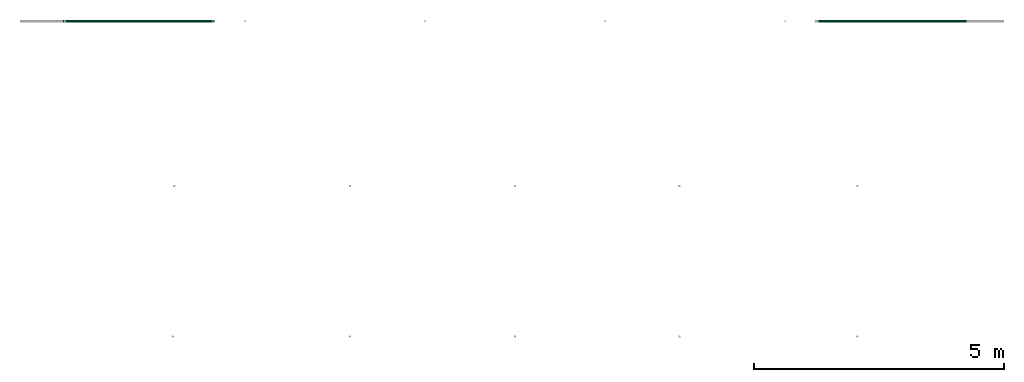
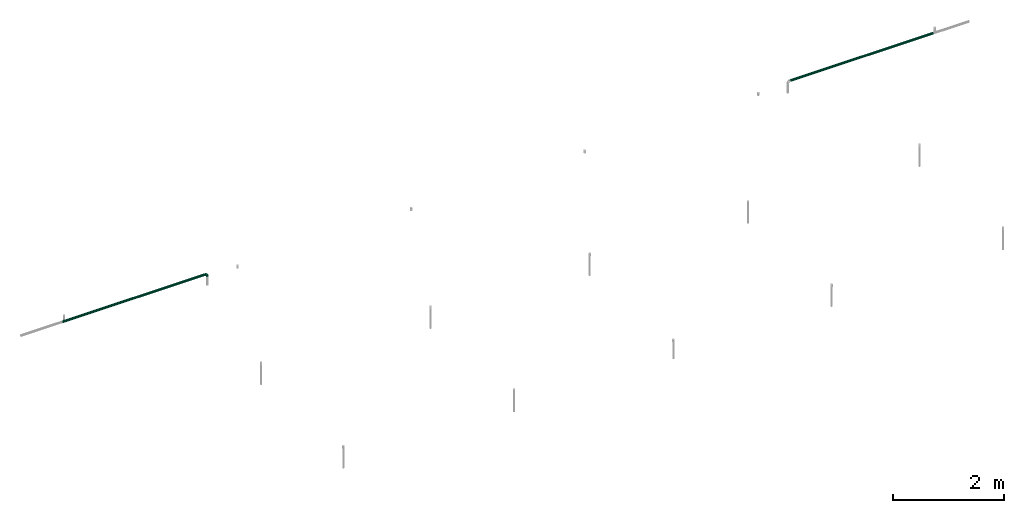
# One storey, part 1 of 14: 2 flow fittings, 2 flow segments.
"""IFC2X3 building model written with IfcOpenShell, lengths in millimetres."""

from ifc_helpers import new_model, entity, si_unit, converted_unit, derived_unit, direction, frame, origin_with_axes, origin_2d_with_axis, place, context, subcontext, project, spatial, hollow_circle, extrude, open_shell, surface_model, source, transform, mapped, type_object, element, save


model = new_model("IFC2X3")

# Units and contexts
model_context = context("Model", 3, precision=0.01, world=frame((0.0, 4.29681676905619e-09, 0.0)), true_north=direction((4.01073788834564e-13, 1.0)))
plan_context = context("Plan", 3, precision=0.01, world=frame((0.0, 4.29681676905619e-09, 0.0)), true_north=direction((4.01073788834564e-13, 1.0)))
body_context = subcontext(model_context, "Body", "Model", "MODEL_VIEW")
ifc_project = project(units=[converted_unit("PLANEANGLEUNIT", "DEGREE", entity("IfcPositiveLengthMeasure", 0.0174532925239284), si_unit("PLANEANGLEUNIT", "RADIAN"), dimensions=[0, 0, 0, 0, 0, 0, 0]), si_unit("AREAUNIT", "SQUARE_METRE"), si_unit("LENGTHUNIT", "METRE", prefix="MILLI"), si_unit("MASSUNIT", "GRAM", prefix="KILO"), si_unit("POWERUNIT", "WATT"), si_unit("PRESSUREUNIT", "PASCAL", prefix="KILO"), si_unit("FORCEUNIT", "NEWTON", prefix="KILO"), si_unit("ELECTRICVOLTAGEUNIT", "VOLT"), si_unit("ELECTRICCURRENTUNIT", "AMPERE"), si_unit("THERMODYNAMICTEMPERATUREUNIT", "DEGREE_CELSIUS"), si_unit("TIMEUNIT", "SECOND"), si_unit("VOLUMEUNIT", "CUBIC_METRE"), derived_unit("LINEARVELOCITYUNIT", [(si_unit("LENGTHUNIT", "METRE"), 1), (si_unit("TIMEUNIT", "SECOND"), -1)]), derived_unit("VOLUMETRICFLOWRATEUNIT", [(si_unit("VOLUMEUNIT", "CUBIC_METRE"), 1), (si_unit("TIMEUNIT", "SECOND"), -1)]), derived_unit("THERMALTRANSMITTANCEUNIT", [(si_unit("POWERUNIT", "WATT"), 1), (si_unit("THERMODYNAMICTEMPERATUREUNIT", "KELVIN"), -1), (si_unit("AREAUNIT", "SQUARE_METRE"), -1)]), derived_unit("SOUNDPRESSUREUNIT", [(si_unit("PRESSUREUNIT", "PASCAL"), 1)])], contexts=[model_context, plan_context])

# Site, building, storey
site_placement = place(None, frame((0.0, -4.29681676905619e-09, 0.0), z_axis=(0.0, 0.0, 1.0), x_axis=(1.0, 0.0, 0.0)))
site = spatial("IfcSite", under=ifc_project, at=site_placement, CompositionType="ELEMENT")
building_placement = place(site_placement, frame((0.0, 4.29681676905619e-09, 0.0), z_axis=(0.0, 0.0, 1.0), x_axis=(1.0, 0.0, 0.0)))
building = spatial("IfcBuilding", under=site, at=building_placement, Name="mc-building", CompositionType="ELEMENT")
storey_placement = place(building_placement, frame((0.0, 0.0, 204000.0), z_axis=(0.0, 0.0, 1.0), x_axis=(1.0, 0.0, 0.0)))
storey = spatial("IfcBuildingStorey", under=building, at=storey_placement, Name="Nivå D", CompositionType="ELEMENT", Elevation=204000.0)

# Flow fittings
pipe_fitting_type_1 = type_object("IfcPipeFittingType", Name="magi_pipe_fe_tee_centric_90_NOR", PredefinedType="JUNCTION")
shared_shape_1 = source(origin_with_axes(), body_context, "Body", "SurfaceModel", [
    surface_model("IfcShellBasedSurfaceModel", [(-33.8, 0.0, -24.2), (-33.8, -6.26342, -23.37541), (-33.8, 6.26342, -23.37541), (-33.8, 12.1, -20.95781), (-33.8, 17.11198, -17.11198), (-33.8, 20.95781, -12.1), (-33.8, -23.37541, -6.26342), (-33.8, 23.37541, -6.26342), (-33.8, -17.11198, -17.11198), (-33.8, -20.95781, -12.1), (-33.8, -12.1, -20.95781), (-33.8, -24.2, 0.0), (-33.8, -23.37541, 6.26342), (-33.8, 20.95781, 12.1), (-33.8, 23.37541, 6.26342), (-33.8, 24.2, 0.0), (-33.8, 12.1, 20.95781), (-33.8, 17.11198, 17.11198), (-33.8, -17.11198, 17.11198), (-33.8, 6.26342, 23.37541), (-33.8, -20.95781, 12.1), (-33.8, -12.1, 20.95781), (-33.8, -6.26342, 23.37541), (-33.8, 0.0, 24.2), (33.8, 6.26342, -23.37541), (33.8, -6.26342, -23.37541), (33.8, 0.0, -24.2), (33.8, 17.11198, -17.11198), (33.8, 12.1, -20.95781), (33.8, -23.37541, -6.26342), (33.8, 20.95781, -12.1), (33.8, 23.37541, -6.26342), (33.8, -17.11198, -17.11198), (33.8, -12.1, -20.95781), (33.8, -20.95781, -12.1), (33.8, -24.2, 0.0), (33.8, 24.2, 0.0), (33.8, 23.37541, 6.26342), (33.8, 20.95781, 12.1), (33.8, -23.37541, 6.26342), (33.8, -17.11198, 17.11198), (33.8, 12.1, 20.95781), (33.8, 17.11198, 17.11198), (33.8, 6.26342, 23.37541), (33.8, -20.95781, 12.1), (33.8, -12.1, 20.95781), (33.8, 0.0, 24.2), (33.8, -6.26342, 23.37541), (15.81824, -23.45734, 5.94922), (16.9, -24.2, 0.0), (12.87025, -21.57947, 10.95293), (33.8, -19.0349, 14.60599), (8.52813, -19.30697, 14.59044), (3.03527, -17.5853, 16.6252), (-3.04044, -17.58619, 16.62425), (-8.52961, -19.30762, 14.58958), (-33.8, -19.0349, 14.60599), (-16.9, -24.2, 0.0), (-15.81885, -23.45775, 5.9476), (-12.87368, -21.58151, 10.9489), (3.03527, -17.5853, -16.6252), (33.8, -19.0349, -14.60599), (8.52813, -19.30697, -14.59044), (-8.52961, -19.30762, -14.58958), (-33.8, -19.0349, -14.60599), (12.87025, -21.57947, -10.95293), (-3.04044, -17.58619, -16.62425), (15.81824, -23.45734, -5.94922), (-12.87368, -21.58151, -10.9489), (-15.81885, -23.45775, -5.9476), (4.37404, -36.3, -16.32415), (-16.9, -36.3, 0.0), (0.0, -36.3, -16.9), (14.63583, -36.3, -8.45), (8.45, -36.3, -14.63583), (16.32415, -36.3, -4.37404), (11.9501, -36.3, -11.9501), (-11.9501, -36.3, -11.9501), (-8.45, -36.3, -14.63583), (-4.37404, -36.3, -16.32415), (-14.63583, -36.3, -8.45), (-16.32415, -36.3, -4.37404), (16.9, -36.3, 0.0), (8.45, -36.3, 14.63583), (16.32415, -36.3, 4.37404), (14.63583, -36.3, 8.45), (-8.45, -36.3, 14.63583), (11.9501, -36.3, 11.9501), (4.37404, -36.3, 16.32415), (-16.32415, -36.3, 4.37404), (-11.9501, -36.3, 11.9501), (-14.63583, -36.3, 8.45), (0.0, -36.3, 16.9), (-4.37404, -36.3, 16.32415), (-16.35943, -23.82888, 2.9738), (16.35912, -23.82867, 2.97461), (-0.00259, -17.58575, 16.62472), (16.35912, -23.82867, -2.97461), (-0.00259, -17.58575, -16.62472), (-16.35943, -23.82888, -2.9738)], [open_shell([[[0, 1, 2]], [[3, 2, 4]], [[5, 2, 6]], [[4, 2, 5]], [[7, 5, 6]], [[8, 9, 10]], [[1, 10, 9]], [[1, 9, 2]], [[9, 6, 2]], [[6, 11, 7]], [[11, 12, 7]], [[13, 14, 15]], [[13, 15, 12]], [[16, 17, 18]], [[12, 17, 13]], [[19, 16, 18]], [[20, 18, 12]], [[18, 17, 12]], [[21, 22, 18]], [[23, 18, 22]], [[18, 23, 19]], [[7, 12, 15]], [[24, 25, 26]], [[27, 24, 28]], [[29, 24, 30]], [[30, 24, 27]], [[29, 30, 31]], [[25, 32, 33]], [[32, 25, 34]], [[24, 34, 25]], [[24, 29, 34]], [[31, 35, 29]], [[31, 36, 35]], [[36, 37, 38]], [[39, 36, 38]], [[40, 38, 41]], [[41, 38, 42]], [[40, 41, 43]], [[39, 40, 44]], [[39, 38, 40]], [[45, 46, 47]], [[46, 45, 40]], [[43, 46, 40]], [[36, 39, 35]], [[35, 39, 48]], [[48, 49, 35]], [[39, 50, 48]], [[51, 40, 52]], [[52, 50, 44]], [[53, 52, 40]], [[54, 53, 21]], [[44, 50, 39]], [[55, 18, 56]], [[57, 58, 11]], [[12, 11, 58]], [[58, 59, 12]], [[55, 54, 18]], [[55, 20, 59]], [[20, 55, 56]], [[59, 20, 12]], [[18, 54, 21]], [[52, 44, 51]], [[53, 40, 45]], [[23, 47, 46]], [[22, 45, 47]], [[19, 46, 43]], [[38, 37, 14]], [[17, 41, 42]], [[13, 42, 38]], [[43, 41, 16]], [[15, 37, 36]], [[21, 45, 22]], [[22, 47, 23]], [[19, 23, 46]], [[43, 16, 19]], [[16, 41, 17]], [[13, 17, 42]], [[14, 13, 38]], [[37, 15, 14]], [[45, 21, 53]], [[5, 31, 30]], [[7, 36, 31]], [[4, 30, 27]], [[26, 25, 1]], [[2, 28, 24]], [[0, 24, 26]], [[27, 28, 3]], [[10, 25, 33]], [[15, 36, 7]], [[7, 31, 5]], [[4, 5, 30]], [[27, 3, 4]], [[3, 28, 2]], [[0, 2, 24]], [[1, 0, 26]], [[25, 10, 1]], [[33, 60, 10]], [[61, 34, 62]], [[63, 9, 64]], [[62, 60, 32]], [[34, 65, 62]], [[66, 10, 60]], [[29, 35, 67]], [[67, 65, 29]], [[49, 67, 35]], [[29, 65, 34]], [[66, 63, 8]], [[62, 32, 61]], [[64, 8, 63]], [[63, 68, 9]], [[8, 10, 66]], [[68, 69, 6]], [[69, 11, 6]], [[11, 69, 57]], [[68, 6, 9]], [[60, 33, 32]], [[70, 71, 72]], [[73, 70, 74]], [[73, 75, 70]], [[73, 74, 76]], [[71, 70, 75]], [[72, 77, 78]], [[78, 79, 72]], [[80, 71, 81]], [[77, 72, 80]], [[71, 80, 72]], [[75, 82, 71]], [[83, 82, 84]], [[83, 84, 85]], [[86, 71, 83]], [[83, 85, 87]], [[86, 83, 88]], [[89, 90, 91]], [[90, 89, 86]], [[86, 92, 93]], [[89, 71, 86]], [[88, 92, 86]], [[83, 71, 82]], [[89, 94, 71]], [[59, 91, 90]], [[89, 91, 58]], [[90, 86, 55]], [[89, 58, 94]], [[94, 57, 71]], [[58, 91, 59]], [[95, 48, 84]], [[55, 93, 54]], [[55, 59, 90]], [[92, 53, 96]], [[55, 86, 93]], [[53, 92, 88]], [[83, 52, 88]], [[87, 85, 50]], [[87, 52, 83]], [[48, 85, 84]], [[87, 50, 52]], [[52, 53, 88]], [[82, 95, 84]], [[48, 50, 85]], [[95, 82, 49]], [[92, 54, 93]], [[96, 54, 92]], [[75, 97, 82]], [[65, 73, 76]], [[75, 73, 67]], [[76, 74, 62]], [[97, 49, 82]], [[67, 73, 65]], [[62, 70, 60]], [[62, 65, 76]], [[72, 66, 98]], [[62, 74, 70]], [[99, 71, 57]], [[99, 69, 81]], [[75, 67, 97]], [[79, 66, 72]], [[69, 80, 81]], [[77, 80, 68]], [[72, 60, 70]], [[79, 63, 66]], [[63, 79, 78]], [[78, 77, 63]], [[63, 77, 68]], [[68, 80, 69]], [[71, 99, 81]], [[98, 60, 72]]])]),
])
flow_fitting_1_placement = place(storey_placement, frame((583000.0, 576802.46783, 6050.0), z_axis=(0.0, -1.0, 0.0), x_axis=(-1.0, 0.0, 0.0)))
element("IfcFlowFitting", 1, at=flow_fitting_1_placement, inside=storey, type_object=pipe_fitting_type_1, Name="magi_pipe_fe_tee_centric_90_NOR", context=body_context, shape_type="MappedRepresentation", body=[
    mapped(shared_shape_1, transform((0.0, 0.0, 0.0), scale=1.0)),
])
pipe_fitting_type_2 = type_object("IfcPipeFittingType", Name="magi_pipe_fe_elbow_short_001", PredefinedType="BEND")
shared_shape_2 = source(origin_with_axes(), body_context, "Body", "SurfaceModel", [
    surface_model("IfcShellBasedSurfaceModel", [(-48.4, 6.26342, -23.37541), (-48.4, 0.0, -24.2), (-48.4, 17.11198, -17.11198), (-48.4, 12.1, -20.95781), (-48.4, 23.37541, -6.26342), (-48.4, 20.95781, -12.1), (-48.4, -12.1, -20.95781), (-48.4, -17.11198, -17.11198), (-48.4, -20.95781, -12.1), (-48.4, -6.26342, -23.37541), (-48.4, -23.37541, -6.26342), (-48.4, -24.2, 0.0), (-48.4, -23.37541, 6.26342), (-48.4, 23.37541, 6.26342), (-48.4, 6.26342, 23.37541), (-48.4, 20.95781, 12.1), (-48.4, 17.11198, 17.11198), (-48.4, 12.1, 20.95781), (-48.4, -12.1, 20.95781), (-48.4, -20.95781, 12.1), (-48.4, -17.11198, 17.11198), (-48.4, -6.26342, 23.37541), (-48.4, 0.0, 24.2), (-48.4, 24.2, 0.0), (-17.11198, 48.4, -17.11198), (0.0, 48.4, -24.2), (-6.26342, 48.4, -23.37541), (-12.1, 48.4, -20.95781), (-20.95781, 48.4, -12.1), (-23.37541, 48.4, -6.26342), (12.1, 48.4, -20.95781), (20.95781, 48.4, -12.1), (17.11198, 48.4, -17.11198), (6.26342, 48.4, -23.37541), (23.37541, 48.4, -6.26342), (23.37541, 48.4, 6.26342), (24.2, 48.4, 0.0), (-23.37541, 48.4, 6.26342), (-6.26342, 48.4, 23.37541), (-17.11198, 48.4, 17.11198), (-20.95781, 48.4, 12.1), (-12.1, 48.4, 20.95781), (12.1, 48.4, 20.95781), (17.11198, 48.4, 17.11198), (20.95781, 48.4, 12.1), (0.0, 48.4, 24.2), (6.26342, 48.4, 23.37541), (-24.2, 48.4, 0.0), (-35.50368, -18.80076, 13.58523), (-31.77913, -13.9618, 18.03279), (-34.50859, -21.43683, 0.0), (-21.39243, -15.41147, 12.21413), (-32.16301, -21.12203, 7.54749), (21.12203, 32.16301, 7.54749), (17.07617, 18.95745, 6.20374), (18.67365, 20.61718, 0.0), (-23.65565, 38.62451, 10.51816), (-20.21592, 37.67665, 15.89859), (-35.56981, -9.15108, 21.77256), (-36.96985, -3.20584, 23.78612), (-33.88786, 3.70953, 24.15875), (-8.84062, -10.8048, 0.0), (-18.95745, -17.07617, 6.20374), (-20.61718, -18.67365, 0.0), (-18.69715, -5.87343, 20.10488), (-24.09336, -0.21717, 23.45593), (-2.08262, -4.09091, 10.90396), (-0.40561, 0.49936, 14.45569), (-8.22634, -5.79523, 14.90978), (-37.83027, 20.17367, 15.88169), (-8.41063, 23.79825, 24.15658), (-17.92529, 17.92529, 23.61199), (-14.40991, 10.5752, 24.07534), (-41.86919, 14.6551, 19.71874), (-9.03342, 41.7434, 22.66763), (-3.31671, 36.19978, 24.14056), (-38.63654, 23.65174, 10.51655), (-38.25939, 25.77657, 5.32075), (-30.0475, 30.0475, 9.04616), (-37.30448, 9.49113, 22.86036), (-6.31688, 16.20853, 23.76192), (-12.02449, 4.43954, 22.59792), (-2.47225, 13.07459, 22.23951), (-4.32281, 4.32281, 19.78555), (13.9618, 31.77913, 18.03279), (15.41147, 21.39243, 12.21413), (18.80076, 35.50367, 13.58523), (-25.72741, 16.42033, 22.38358), (-26.59277, 10.36599, 23.76692), (3.20584, 36.96985, 23.78612), (9.15107, 35.56981, 21.77256), (5.87343, 18.69715, 20.10488), (21.43683, 34.50859, 0.0), (-23.74657, 5.93004, 24.18967), (-22.40302, 25.55556, 19.88516), (-33.3245, 16.42738, 20.3789), (-25.47357, 39.04012, 5.19167), (-30.32947, 31.74105, 4.25904), (11.04589, 19.60124, 16.55181), (-27.44219, 36.3, 0.0), (-10.46605, 32.79159, 23.04712), (-13.80953, 25.05111, 23.26361), (-17.54489, 31.27863, 20.33941), (-19.27982, 23.42922, 22.01925), (-14.78447, 40.57947, 19.81913), (-19.60124, -11.04589, 16.55181), (-25.09785, 32.07921, 13.69695), (-25.5093, 27.02629, 17.14196), (-31.08127, 26.00324, 13.49448), (0.21717, 24.09336, 23.45593), (5.51075, 8.40547, 15.32867), (-11.48597, -10.80284, 11.35932), (1.43689, -3.14326, 6.54995), (7.34882, 4.31024, 8.4514), (7.50574, 2.51208, 3.62663), (12.46453, 10.09451, 5.71609), (12.1504, 12.55391, 10.15678), (-36.3, 27.44219, 0.0), (-6.52237, -9.62364, 7.02633), (2.93595, -2.93595, 0.0), (10.8048, 8.84062, 0.0), (-19.60124, -11.04589, -16.55181), (-31.77913, -13.9618, -18.03279), (-18.69715, -5.87343, -20.10488), (-21.39243, -15.41147, -12.21413), (-37.67665, 20.21591, -15.89859), (-40.57947, 14.78447, -19.81913), (-39.04012, 25.47357, -5.19167), (-32.16301, -21.12203, -7.54749), (-30.0475, 30.0475, -9.04616), (-38.62452, 23.65565, -10.51816), (-18.95745, -17.07617, -6.20374), (-23.42922, 19.27982, -22.01926), (-25.05111, 13.80953, -23.26361), (-31.27863, 17.54489, -20.33941), (-14.6551, 41.86919, -19.71874), (-20.17367, 37.83026, -15.88169), (9.15108, 35.56981, -21.77256), (5.87343, 18.69715, -20.10488), (0.21717, 24.09336, -23.45593), (-41.7434, 9.03342, -22.66763), (-35.50368, -18.80076, -13.58523), (-35.56981, -9.15108, -21.77256), (-16.42033, 25.72741, -22.38358), (-9.49113, 37.30447, -22.86036), (-10.36599, 26.59277, -23.76692), (-36.96985, -3.20584, -23.78612), (-23.79826, 8.41063, -24.15658), (-17.92529, 17.92529, -23.61199), (-10.5752, 14.40991, -24.07534), (-36.19978, 3.31671, -24.14056), (-25.77657, 38.25939, -5.32075), (-23.65174, 38.63654, -10.51655), (-32.79159, 10.46605, -23.04712), (-31.74105, 30.32946, -4.25904), (-5.93004, 23.74657, -24.18967), (-25.55556, 22.40302, -19.88516), (-16.42738, 33.3245, -20.3789), (3.20584, 36.96985, -23.78612), (-3.70953, 33.88785, -24.15875), (18.80076, 35.50367, -13.58523), (13.9618, 31.77913, -18.03279), (7.50574, 2.51208, -3.62663), (12.46453, 10.09451, -5.71609), (-16.20853, 6.31688, -23.76192), (-4.43954, 12.02449, -22.59792), (-13.07459, 2.47225, -22.23951), (15.41147, 21.39243, -12.21413), (21.12203, 32.16301, -7.54749), (17.07617, 18.95745, -6.20374), (-32.07921, 25.09785, -13.69695), (11.04589, 19.60124, -16.55181), (12.1504, 12.55391, -10.15678), (5.51075, 8.40547, -15.32867), (-27.02629, 25.5093, -17.14196), (-26.00324, 31.08127, -13.49448), (-24.09336, -0.21717, -23.45593), (-4.32281, 4.32281, -19.78555), (-8.22634, -5.79524, -14.90978), (-11.48597, -10.80284, -11.35931), (-0.40561, 0.49936, -14.45569), (-6.52237, -9.62364, -7.02632), (-2.08262, -4.09091, -10.90396), (7.34882, 4.31024, -8.4514), (1.43689, -3.14326, -6.54994)], [open_shell([[[0, 1, 2]], [[3, 0, 2]], [[4, 5, 2]], [[6, 2, 1]], [[4, 2, 6]], [[7, 8, 6]], [[1, 9, 6]], [[8, 10, 6]], [[6, 10, 4]], [[11, 12, 10]], [[13, 4, 10]], [[14, 13, 10]], [[15, 13, 16]], [[13, 14, 17]], [[16, 13, 17]], [[10, 18, 14]], [[19, 20, 12]], [[20, 10, 12]], [[21, 22, 18]], [[20, 18, 10]], [[18, 22, 14]], [[23, 4, 13]], [[24, 25, 26]], [[24, 26, 27]], [[24, 28, 29]], [[25, 24, 30]], [[30, 24, 29]], [[30, 31, 32]], [[30, 33, 25]], [[30, 34, 31]], [[29, 34, 30]], [[34, 35, 36]], [[34, 29, 37]], [[34, 37, 38]], [[39, 37, 40]], [[41, 38, 37]], [[41, 37, 39]], [[38, 42, 34]], [[35, 43, 44]], [[35, 34, 43]], [[42, 45, 46]], [[34, 42, 43]], [[38, 45, 42]], [[37, 29, 47]], [[20, 48, 49]], [[12, 11, 50]], [[51, 48, 52]], [[53, 54, 55]], [[48, 20, 19]], [[12, 52, 19]], [[40, 56, 57]], [[49, 18, 20]], [[49, 58, 18]], [[22, 59, 60]], [[61, 62, 63]], [[58, 64, 65]], [[66, 67, 68]], [[15, 16, 69]], [[70, 71, 72]], [[17, 73, 16]], [[21, 59, 22]], [[38, 74, 75]], [[22, 60, 14]], [[15, 69, 76]], [[16, 73, 69]], [[23, 13, 77]], [[13, 15, 76]], [[77, 76, 78]], [[14, 79, 17]], [[80, 81, 82]], [[68, 83, 64]], [[84, 43, 42]], [[85, 86, 84]], [[87, 79, 88]], [[18, 58, 21]], [[45, 89, 46]], [[53, 35, 44]], [[45, 38, 75]], [[84, 90, 91]], [[44, 86, 53]], [[92, 35, 53]], [[86, 44, 43]], [[90, 42, 46]], [[53, 55, 92]], [[88, 93, 72]], [[54, 53, 85]], [[87, 94, 95]], [[78, 96, 97]], [[98, 84, 91]], [[99, 96, 47]], [[79, 14, 60]], [[96, 78, 56]], [[62, 52, 63]], [[57, 39, 40]], [[100, 70, 75]], [[101, 102, 103]], [[12, 50, 52]], [[104, 41, 39]], [[74, 38, 41]], [[57, 102, 104]], [[105, 64, 49]], [[90, 84, 42]], [[40, 37, 56]], [[56, 106, 57]], [[102, 57, 107]], [[95, 107, 69]], [[76, 108, 78]], [[100, 101, 70]], [[89, 75, 109]], [[64, 58, 49]], [[63, 52, 50]], [[59, 58, 65]], [[105, 49, 51]], [[64, 83, 81]], [[89, 90, 46]], [[36, 35, 92]], [[109, 82, 91]], [[109, 91, 90]], [[91, 83, 110]], [[111, 68, 105]], [[66, 68, 111]], [[62, 51, 52]], [[66, 112, 113]], [[114, 115, 113]], [[98, 85, 84]], [[52, 48, 19]], [[49, 48, 51]], [[84, 86, 43]], [[53, 86, 85]], [[88, 79, 60]], [[73, 79, 95]], [[96, 56, 37]], [[78, 108, 106]], [[87, 103, 94]], [[100, 74, 104]], [[108, 69, 107]], [[78, 97, 77]], [[88, 72, 71]], [[109, 75, 70]], [[81, 72, 65]], [[70, 72, 80]], [[75, 89, 45]], [[90, 89, 109]], [[58, 59, 21]], [[60, 59, 65]], [[67, 83, 68]], [[110, 113, 116]], [[88, 60, 93]], [[87, 88, 71]], [[103, 87, 71]], [[79, 87, 95]], [[101, 103, 71]], [[94, 103, 102]], [[47, 96, 37]], [[96, 99, 97]], [[99, 117, 97]], [[97, 117, 77]], [[23, 77, 117]], [[13, 76, 77]], [[60, 65, 93]], [[65, 72, 93]], [[70, 101, 71]], [[102, 101, 100]], [[69, 108, 76]], [[106, 108, 107]], [[57, 106, 107]], [[78, 106, 56]], [[57, 104, 39]], [[100, 104, 102]], [[102, 107, 94]], [[95, 94, 107]], [[64, 81, 65]], [[82, 81, 83]], [[91, 82, 83]], [[80, 82, 109]], [[70, 80, 109]], [[81, 80, 72]], [[79, 73, 17]], [[69, 73, 95]], [[104, 74, 41]], [[75, 74, 100]], [[62, 61, 118]], [[111, 62, 118]], [[113, 115, 116]], [[119, 118, 61]], [[111, 105, 51]], [[113, 112, 114]], [[120, 55, 54]], [[68, 64, 105]], [[91, 110, 98]], [[116, 98, 110]], [[62, 111, 51]], [[66, 111, 118]], [[112, 66, 118]], [[67, 113, 110]], [[118, 119, 112]], [[114, 112, 119]], [[119, 120, 114]], [[115, 120, 54]], [[120, 115, 114]], [[116, 54, 85]], [[54, 116, 115]], [[116, 85, 98]], [[113, 67, 66]], [[83, 67, 110]], [[121, 122, 123]], [[122, 121, 124]], [[5, 125, 2]], [[2, 126, 3]], [[117, 127, 23]], [[50, 10, 128]], [[127, 129, 130]], [[128, 131, 63]], [[132, 133, 134]], [[24, 135, 136]], [[137, 138, 139]], [[3, 140, 0]], [[128, 8, 141]], [[142, 6, 9]], [[128, 63, 50]], [[5, 4, 130]], [[8, 7, 141]], [[143, 144, 145]], [[146, 9, 1]], [[147, 148, 149]], [[8, 128, 10]], [[124, 141, 122]], [[150, 1, 0]], [[151, 152, 129]], [[125, 134, 126]], [[153, 147, 150]], [[127, 154, 129]], [[145, 155, 149]], [[47, 29, 151]], [[143, 156, 157]], [[152, 29, 28]], [[25, 158, 159]], [[122, 7, 6]], [[24, 27, 135]], [[144, 27, 26]], [[32, 160, 161]], [[25, 33, 158]], [[120, 162, 163]], [[130, 125, 5]], [[24, 136, 28]], [[0, 140, 150]], [[30, 161, 137]], [[142, 122, 6]], [[25, 159, 26]], [[164, 165, 166]], [[31, 160, 32]], [[161, 30, 32]], [[167, 160, 168]], [[131, 128, 124]], [[36, 92, 34]], [[34, 92, 168]], [[169, 168, 55]], [[34, 168, 31]], [[144, 26, 159]], [[130, 170, 125]], [[171, 172, 173]], [[136, 152, 28]], [[30, 137, 33]], [[122, 142, 123]], [[134, 125, 174]], [[157, 174, 136]], [[152, 175, 129]], [[153, 133, 147]], [[146, 150, 176]], [[146, 142, 9]], [[11, 10, 50]], [[176, 166, 123]], [[176, 123, 142]], [[123, 177, 178]], [[138, 137, 161]], [[55, 168, 92]], [[158, 137, 139]], [[171, 161, 167]], [[138, 177, 165]], [[177, 138, 173]], [[124, 121, 179]], [[173, 180, 177]], [[61, 131, 181]], [[182, 181, 179]], [[169, 167, 168]], [[122, 141, 7]], [[128, 141, 124]], [[168, 160, 31]], [[161, 160, 167]], [[145, 144, 159]], [[135, 144, 157]], [[127, 130, 4]], [[129, 175, 170]], [[143, 132, 156]], [[153, 140, 126]], [[175, 136, 174]], [[129, 154, 151]], [[145, 149, 148]], [[176, 150, 147]], [[165, 149, 139]], [[147, 149, 164]], [[150, 146, 1]], [[142, 146, 176]], [[137, 158, 33]], [[159, 158, 139]], [[171, 138, 161]], [[183, 182, 180]], [[145, 159, 155]], [[143, 145, 148]], [[132, 143, 148]], [[144, 143, 157]], [[133, 132, 148]], [[156, 132, 134]], [[23, 127, 4]], [[127, 117, 154]], [[117, 99, 154]], [[154, 99, 151]], [[47, 151, 99]], [[29, 152, 151]], [[159, 139, 155]], [[139, 149, 155]], [[147, 133, 148]], [[134, 133, 153]], [[136, 175, 152]], [[170, 175, 174]], [[125, 170, 174]], [[129, 170, 130]], [[125, 126, 2]], [[153, 126, 134]], [[134, 174, 156]], [[157, 156, 174]], [[138, 165, 139]], [[166, 165, 177]], [[123, 166, 177]], [[164, 166, 176]], [[147, 164, 176]], [[165, 164, 149]], [[144, 135, 27]], [[136, 135, 157]], [[126, 140, 3]], [[150, 140, 153]], [[179, 131, 124]], [[181, 119, 61]], [[63, 131, 61]], [[169, 163, 172]], [[169, 55, 120]], [[123, 178, 121]], [[179, 121, 178]], [[172, 171, 167]], [[173, 138, 171]], [[182, 179, 178]], [[131, 179, 181]], [[180, 182, 178]], [[163, 162, 183]], [[120, 119, 162]], [[172, 163, 183]], [[120, 163, 169]], [[173, 172, 183]], [[169, 172, 167]], [[177, 180, 178]], [[183, 180, 173]], [[184, 181, 182]], [[184, 182, 183]], [[119, 181, 184]], [[119, 184, 162]], [[162, 184, 183]]])]),
])
flow_fitting_2_placement = place(storey_placement, frame((585971.2, 576802.46783, 6050.0), z_axis=(0.0, 1.0, 0.0), x_axis=(1.0, 0.0, 0.0)))
element("IfcFlowFitting", 2, at=flow_fitting_2_placement, inside=storey, type_object=pipe_fitting_type_2, Name="magi_pipe_fe_elbow_short_001", context=body_context, shape_type="MappedRepresentation", body=[
    mapped(shared_shape_2, transform((0.0, 0.0, 0.0), scale=1.0)),
])

# Flow segments
pipe_segment_type = type_object("IfcPipeSegmentType", Name="Stålrør normaltykke", PredefinedType="RIGIDSEGMENT")
shared_shape_3 = source(origin_with_axes(), body_context, "Body", "SweptSolid", [
    extrude(hollow_circle(Radius=24.1, WallThickness=2.0, at=origin_2d_with_axis()), frame((0.0, 0.0, 0.0), z_axis=(1.0, 0.0, 0.0), x_axis=(0.0, 1.0, 0.0)), (0.0, 0.0, 1.0), 2889.0),
])
flow_segment_1_placement = place(storey_placement, frame((583033.8, 576802.46783, 6050.0), z_axis=(0.0, 0.0, 1.0), x_axis=(1.0, 0.0, 0.0)))
element("IfcFlowSegment", 3, at=flow_segment_1_placement, inside=storey, type_object=pipe_segment_type, Name="Stålrør normaltykke", context=body_context, shape_type="MappedRepresentation", body=[
    mapped(shared_shape_3, transform((0.0, 0.0, 0.0), scale=1.0)),
])
shared_shape_4 = source(origin_with_axes(), body_context, "Body", "SweptSolid", [
    extrude(hollow_circle(Radius=24.1, WallThickness=2.0, at=origin_2d_with_axis()), frame((0.0, 0.0, 0.0), z_axis=(1.0, 0.0, 0.0), x_axis=(0.0, 1.0, 0.0)), (0.0, 0.0, 1.0), 2964.0),
])
flow_segment_2_placement = place(storey_placement, frame((601026.2, 576802.46783, 6055.58090999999), z_axis=(0.0, 0.0, 1.0), x_axis=(-1.0, 0.0, 0.0)))
element("IfcFlowSegment", 4, at=flow_segment_2_placement, inside=storey, type_object=pipe_segment_type, Name="Stålrør normaltykke", context=body_context, shape_type="MappedRepresentation", body=[
    mapped(shared_shape_4, transform((0.0, 0.0, 0.0), scale=1.0)),
])

save(model, "model.ifc")
